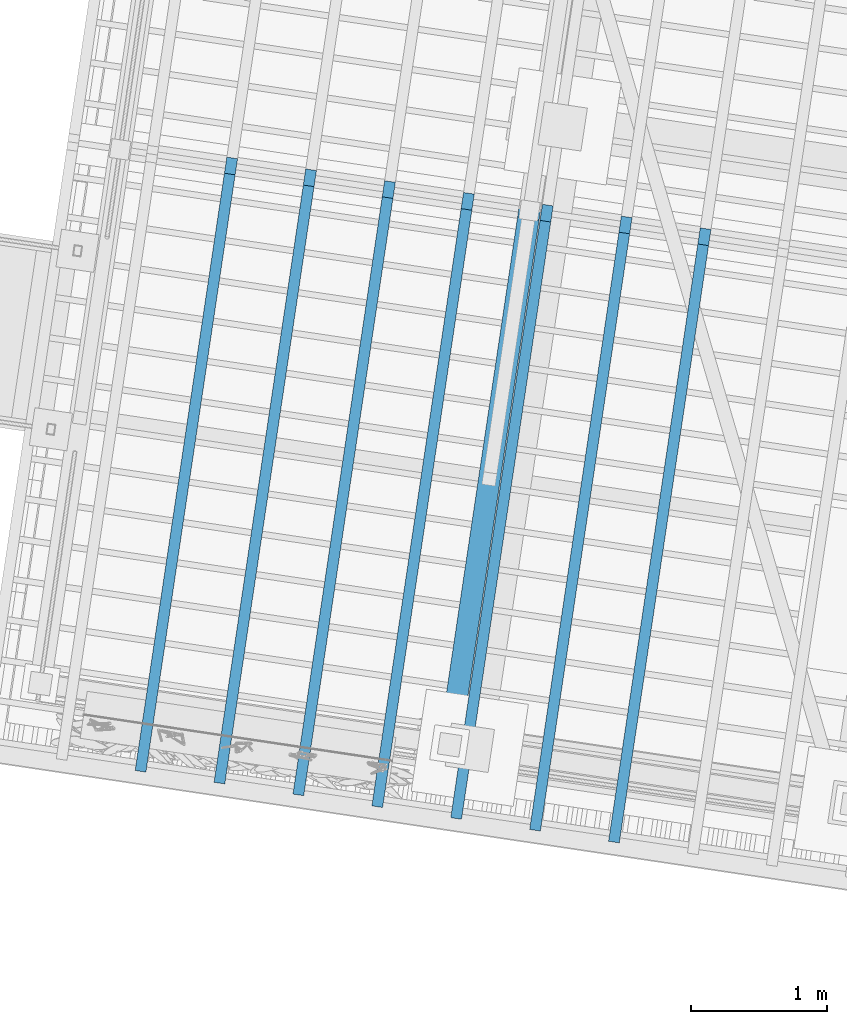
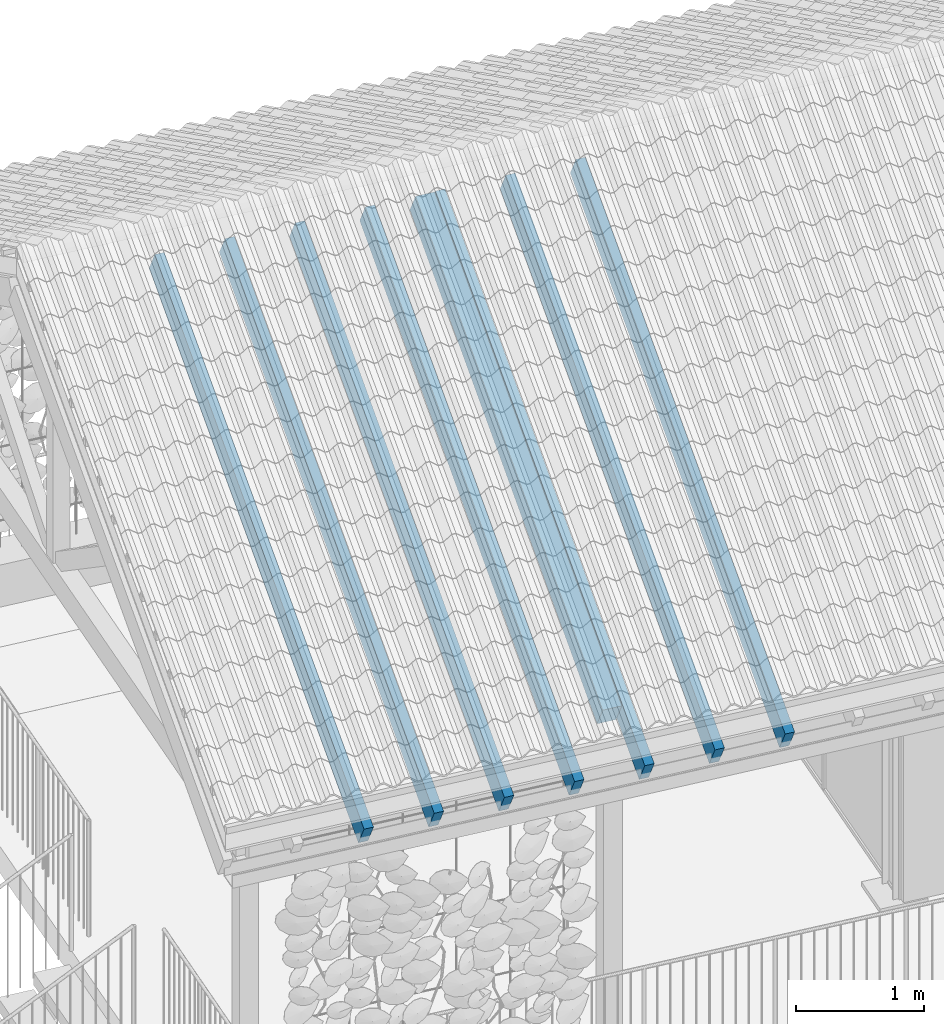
# One storey, part 14 of 131: 8 members, 1 element without a shape of its own.
"""IFC4 building model written with IfcOpenShell, lengths in metres."""

from ifc_helpers import new_model, si_unit, direction, frame, origin_with_axes, place, context, subcontext, project, spatial, rectangle, extrude, material, material_profile, profile_set, profile_usage, type_object, element, aggregate, save


model = new_model("IFC4")

# Units and contexts
model_context = context("Model", 3, precision=1e-05, world=origin_with_axes(), true_north=direction((0.0, 1.0)))
body_context = subcontext(model_context, "Body", "Model", "MODEL_VIEW")
ifc_project = project(units=[si_unit("VOLUMEUNIT", "CUBIC_METRE"), si_unit("LENGTHUNIT", "METRE"), si_unit("AREAUNIT", "SQUARE_METRE")], contexts=[model_context])

# Site, building, storey
site_placement = place(None, origin_with_axes())
site = spatial("IfcSite", under=ifc_project, at=site_placement, Name="Lares · Rua das Mercês · artigo 4771")
building_placement = place(site_placement, frame((15.0, 9.7, 14.65), z_axis=(0.0, 0.0, 1.0), x_axis=(0.989015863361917, -0.147809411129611, 0.0)))
building = spatial("IfcBuilding", under=site, at=building_placement, Name="Casa Sobreposta")
storey_placement = place(building_placement, origin_with_axes())
storey = spatial("IfcBuildingStorey", under=building, at=storey_placement, Name="00 · Habitação e estacionamento", Elevation=14.65)

# Roof, members
ifc_material = material(Name="Madeira / Bauholz", Category="wood")
roof_placement = place(storey_placement, origin_with_axes())
roof = element("IfcRoof", 1, at=roof_placement, inside=storey, material=ifc_material, Name="Cobertura de telha · duas águas 30 graus", PredefinedType="GABLE_ROOF")
ifc_material_profile_1 = material_profile(ifc_material, rectangle(XDim=0.16, YDim=0.24))
ifc_profile_set_1 = profile_set([ifc_material_profile_1], Name="TIMBER0.160x0.240")
ifc_profile_usage_1 = profile_usage(ifc_profile_set_1)
member_type_1 = type_object("IfcMemberType", Name="TIMBER0.160x0.240 / timber", PredefinedType="NOTDEFINED", material=ifc_profile_set_1)
member_1_placement = place(roof_placement, frame((-3.0, -1.43, 3.44635462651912), z_axis=(0.0, 0.866025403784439, 0.5), x_axis=(1.0, 0.0, 0.0)))
member_1 = element("IfcMember", 2, at=member_1_placement, type_object=member_type_1, material=ifc_profile_usage_1, Name="Tesoura · perna", context=body_context, shape_type="SweptSolid", body=[
    extrude(rectangle(XDim=0.16, YDim=0.24), origin_with_axes(), (0.0, 0.0, 1.0), 4.59570814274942),
])
ifc_material_profile_2 = material_profile(ifc_material, rectangle(XDim=0.08, YDim=0.24))
ifc_profile_set_2 = profile_set([ifc_material_profile_2], Name="TIMBER0.080x0.240")
ifc_profile_usage_2 = profile_usage(ifc_profile_set_2)
member_type_2 = type_object("IfcMemberType", Name="TIMBER0.080x0.240 / timber", PredefinedType="NOTDEFINED", material=ifc_profile_set_2)
member_2_placement = place(roof_placement, frame((-5.22424242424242, -1.9, 3.181), z_axis=(0.0, 0.866025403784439, 0.5), x_axis=(1.0, 0.0, 0.0)))
member_2 = element("IfcMember", 3, at=member_2_placement, type_object=member_type_2, material=ifc_profile_usage_2, Name="Cobertura · caibro", context=body_context, shape_type="SweptSolid", body=[
    extrude(rectangle(XDim=0.08, YDim=0.24), origin_with_axes(), (0.0, 0.0, 1.0), 5.13841739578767),
])
ifc_profile_usage_3 = profile_usage(ifc_profile_set_2)
member_3_placement = place(roof_placement, frame((-4.63636363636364, -1.9, 3.181), z_axis=(0.0, 0.866025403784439, 0.5), x_axis=(1.0, 0.0, 0.0)))
member_3 = element("IfcMember", 4, at=member_3_placement, type_object=member_type_2, material=ifc_profile_usage_3, Name="Cobertura · caibro", context=body_context, shape_type="SweptSolid", body=[
    extrude(rectangle(XDim=0.08, YDim=0.24), origin_with_axes(), (0.0, 0.0, 1.0), 5.13841739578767),
])
ifc_profile_usage_4 = profile_usage(ifc_profile_set_2)
member_4_placement = place(roof_placement, frame((-4.04848484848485, -1.9, 3.181), z_axis=(0.0, 0.866025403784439, 0.5), x_axis=(1.0, 0.0, 0.0)))
member_4 = element("IfcMember", 5, at=member_4_placement, type_object=member_type_2, material=ifc_profile_usage_4, Name="Cobertura · caibro", context=body_context, shape_type="SweptSolid", body=[
    extrude(rectangle(XDim=0.08, YDim=0.24), origin_with_axes(), (0.0, 0.0, 1.0), 5.13841739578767),
])
ifc_profile_usage_5 = profile_usage(ifc_profile_set_2)
member_5_placement = place(roof_placement, frame((-3.46060606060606, -1.9, 3.181), z_axis=(0.0, 0.866025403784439, 0.5), x_axis=(1.0, 0.0, 0.0)))
member_5 = element("IfcMember", 6, at=member_5_placement, type_object=member_type_2, material=ifc_profile_usage_5, Name="Cobertura · caibro", context=body_context, shape_type="SweptSolid", body=[
    extrude(rectangle(XDim=0.08, YDim=0.24), origin_with_axes(), (0.0, 0.0, 1.0), 5.13841739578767),
])
ifc_profile_usage_6 = profile_usage(ifc_profile_set_2)
member_6_placement = place(roof_placement, frame((-2.87272727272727, -1.9, 3.181), z_axis=(0.0, 0.866025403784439, 0.5), x_axis=(1.0, 0.0, 0.0)))
member_6 = element("IfcMember", 7, at=member_6_placement, type_object=member_type_2, material=ifc_profile_usage_6, Name="Cobertura · caibro", context=body_context, shape_type="SweptSolid", body=[
    extrude(rectangle(XDim=0.08, YDim=0.24), origin_with_axes(), (0.0, 0.0, 1.0), 5.13841739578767),
])
ifc_profile_usage_7 = profile_usage(ifc_profile_set_2)
member_7_placement = place(roof_placement, frame((-2.28484848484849, -1.9, 3.181), z_axis=(0.0, 0.866025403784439, 0.5), x_axis=(1.0, 0.0, 0.0)))
member_7 = element("IfcMember", 8, at=member_7_placement, type_object=member_type_2, material=ifc_profile_usage_7, Name="Cobertura · caibro", context=body_context, shape_type="SweptSolid", body=[
    extrude(rectangle(XDim=0.08, YDim=0.24), origin_with_axes(), (0.0, 0.0, 1.0), 5.13841739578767),
])
ifc_profile_usage_8 = profile_usage(ifc_profile_set_2)
member_8_placement = place(roof_placement, frame((-1.6969696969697, -1.9, 3.181), z_axis=(0.0, 0.866025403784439, 0.5), x_axis=(1.0, 0.0, 0.0)))
member_8 = element("IfcMember", 9, at=member_8_placement, type_object=member_type_2, material=ifc_profile_usage_8, Name="Cobertura · caibro", context=body_context, shape_type="SweptSolid", body=[
    extrude(rectangle(XDim=0.08, YDim=0.24), origin_with_axes(), (0.0, 0.0, 1.0), 5.13841739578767),
])
aggregate(roof, [member_1, member_2, member_3, member_4, member_5, member_6, member_7, member_8])

save(model, "model.ifc")
